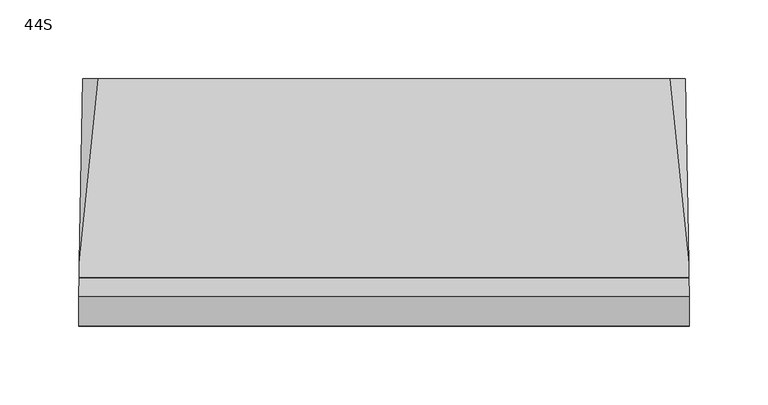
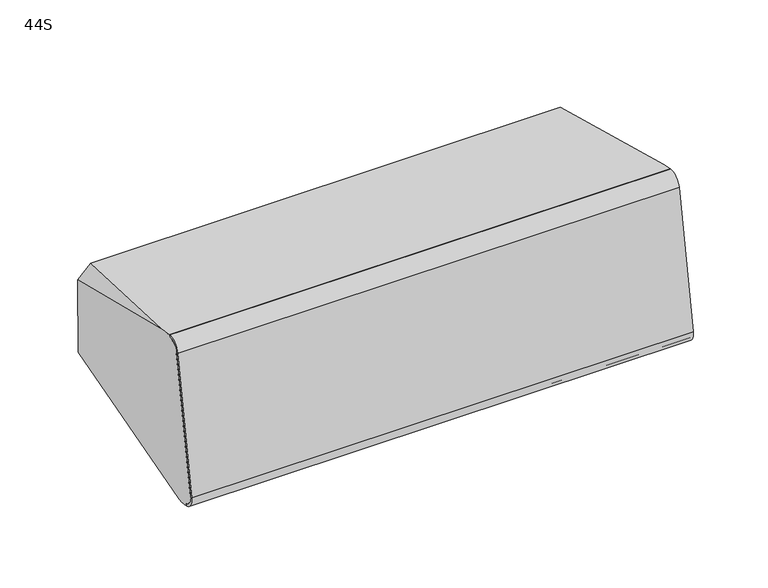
"""IFC4 building model written with IfcOpenShell, lengths in millimetres: proxy geometry, d&b xS-Series 44S Point Source : 44S."""

from ifc_helpers import new_model, si_unit, frame, origin, place, context, project, spatial, polyline, circle_curve, ellipse_curve, source, transform, mapped, element, save
from ifc_brep_helpers import plane_surface, cylinder_surface, revolved_surface, advanced_brep


def proxy_44s_f901832d(model_context):
    return source(origin(), model_context, "Body", "AdvancedBrep", [
        advanced_brep(
        [(193.2924342, -53.8838283, 74.4884759), (193.2924342, -54.2235668, 72.5617234), (193.4294708, -63.4507785, 66.1007602), (193.4294708, -82.2184008, -40.3357147), (193.2918337, -75.7291242, -49.6033621), (193.2918337, -76.0764205, -51.5729776), (193.1898069, -70.2363231, -52.6027444), (193.132384, -66.7384961, -51.9862805), (190.8800877, 72.3274823, -17.196889), (191.0574064, 72.3274823, 42.1555592), (193.132384, -44.7224233, 72.873073), (-193.2924342, -54.2235668, 72.5617234), (-193.2924342, -53.8838283, 74.4884759), (-193.132384, -44.7224233, 72.873073), (-191.0574064, 72.3274823, 42.1555592), (-190.8800877, 72.3274823, -17.196889), (-193.132384, -66.7384961, -51.9862805), (-193.1898069, -70.2363231, -52.6027444), (-193.2918337, -76.0764205, -51.5729776), (-193.2918337, -75.7291242, -49.6033621), (-193.4294708, -82.2184008, -40.3357147), (-193.4294708, -63.4507785, 66.1007602), (181.3061997, 72.3274823, 52.2340166), (-181.3061997, 72.3274823, 52.2340166), (-179.9289467, 72.3274823, -27.4770213), (179.9289467, 72.3274823, -27.4770213), (138.5, 72.3274823, -0.6215024), (138.5, 72.3274823, 25.3784976), (128.5, 72.3274823, 35.3784976), (51.5, 72.3274823, 35.3784976), (41.5, 72.3274823, 25.3784976), (41.5, 72.3274823, -0.6215024), (51.5, 72.3274823, -10.6215024), (128.5, 72.3274823, -10.6215024), (138.5, 67.3274823, -0.6215024), (128.5, 67.3274823, -10.6215024), (51.5, 67.3274823, -10.6215024), (41.5, 67.3274823, -0.6215024), (41.5, 67.3274823, 25.3784976), (51.5, 67.3274823, 35.3784976), (128.5, 67.3274823, 35.3784976), (138.5, 67.3274823, 25.3784976)],
        [
            (0, 1),
            (1, 2, ellipse_curve(frame((193.2924342, -55.606691, 64.7176359), z_axis=(0.9998520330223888, 0.01694075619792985, -0.0029871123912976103), x_axis=(0.01720209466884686, -0.9846620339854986, 0.17362248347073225)), 7.9662739, 7.9650952)),
            (2, 3),
            (3, 4, ellipse_curve(frame((193.2918337, -74.3399388, -41.7249001), z_axis=(0.9998520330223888, 0.01694075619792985, -0.0029871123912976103), x_axis=(0.01720209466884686, -0.9846620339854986, 0.17362248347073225)), 8.0011839, 8.0)),
            (4, 5),
            (5, 6),
            (6, 7),
            (7, 8),
            (8, 9),
            (9, 10),
            (10, 0),
            (11, 12),
            (12, 13),
            (13, 14),
            (14, 15),
            (15, 16),
            (16, 17),
            (17, 18),
            (18, 19),
            (19, 20, ellipse_curve(frame((-193.2918337, -74.3399388, -41.7249001), z_axis=(-0.9998520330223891, 0.01694075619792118, -0.002987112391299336), x_axis=(0.017202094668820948, 0.9846620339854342, -0.1736224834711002)), 8.0011839, 8.0)),
            (20, 21),
            (21, 11, ellipse_curve(frame((-193.2924342, -55.606691, 64.7176359), z_axis=(-0.9998520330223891, 0.01694075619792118, -0.002987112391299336), x_axis=(0.017202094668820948, 0.9846620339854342, -0.1736224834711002)), 7.9662739, 7.9650952)),
            (0, 12),
            (11, 1),
            (21, 2),
            (20, 3),
            (19, 4),
            (18, 5),
            (17, 6),
            (10, 22),
            (22, 23),
            (23, 13),
            (16, 24),
            (24, 25),
            (25, 7),
            (9, 22),
            (23, 14),
            (15, 24),
            (25, 8),
            (26, 27),
            (27, 28, circle_curve(frame((128.5, 72.3274823, 25.3784976), z_axis=(0.0, -1.0, 0.0), x_axis=(0.0, 0.0, -1.0)), 10.0)),
            (28, 29),
            (29, 30, circle_curve(frame((51.5, 72.3274823, 25.3784976), z_axis=(0.0, -1.0, 0.0), x_axis=(0.0, 0.0, -1.0)), 10.0)),
            (30, 31),
            (31, 32, circle_curve(frame((51.5, 72.3274823, -0.6215024), z_axis=(0.0, -1.0, 0.0), x_axis=(0.0, 0.0, -1.0)), 10.0)),
            (32, 33),
            (33, 26, circle_curve(frame((128.5, 72.3274823, -0.6215024), z_axis=(0.0, -1.0, 0.0), x_axis=(0.0, 0.0, -1.0)), 10.0)),
            (34, 35, circle_curve(frame((128.5, 67.3274823, -0.6215024), z_axis=(0.0, 1.0, 0.0), x_axis=(0.0, 0.0, -1.0)), 10.0)),
            (35, 36),
            (36, 37, circle_curve(frame((51.5, 67.3274823, -0.6215024), z_axis=(0.0, 1.0, 0.0), x_axis=(0.0, 0.0, -1.0)), 10.0)),
            (37, 38),
            (38, 39, circle_curve(frame((51.5, 67.3274823, 25.3784976), z_axis=(0.0, 1.0, 0.0), x_axis=(0.0, 0.0, -1.0)), 10.0)),
            (39, 40),
            (40, 41, circle_curve(frame((128.5, 67.3274823, 25.3784976), z_axis=(0.0, 1.0, 0.0), x_axis=(0.0, 0.0, -1.0)), 10.0)),
            (41, 34),
            (41, 27),
            (26, 34),
            (40, 28),
            (39, 29),
            (38, 30),
            (37, 31),
            (36, 32),
            (35, 33),
        ],
        [
            plane_surface(frame((193.8309972, -113.1899198, -81.5842244), z_axis=(0.999852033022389, 0.016940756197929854, -0.002987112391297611), x_axis=(0.0, 0.1736481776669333, 0.9848077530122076))),
            plane_surface(frame((-190.7119283, 65.3481506, -113.0653033), z_axis=(-0.9998520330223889, 0.016940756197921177, -0.002987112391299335), x_axis=(0.0, 0.1736481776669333, 0.9848077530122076))),
            plane_surface(frame((207.1452552, -53.8838283, 74.4884759), z_axis=(0.0, -0.9848077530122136, 0.17364817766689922), x_axis=(-1.0, 0.0, 0.0))),
            cylinder_surface(frame((-207.1452552, -55.606691, 64.7176359), z_axis=(1.0, 0.0, 0.0), x_axis=(0.0, 0.1736481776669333, 0.9848077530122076)), 7.9650952),
            plane_surface(frame((207.1452552, -63.4507785, 66.1007602), z_axis=(0.0, -0.9848077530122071, 0.17364817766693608), x_axis=(-1.0, 0.0, 0.0))),
            cylinder_surface(frame((-207.1452552, -74.3399388, -41.7249001), z_axis=(1.0, 0.0, 0.0), x_axis=(0.0, 0.1736481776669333, 0.9848077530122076)), 8.0),
            plane_surface(frame((207.1452552, -75.7291242, -49.6033621), z_axis=(0.0, -0.9848077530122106, 0.17364817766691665), x_axis=(-1.0, 0.0, 0.0))),
            plane_surface(frame((207.1452552, -76.0764205, -51.5729776), z_axis=(0.0, -0.1736481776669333, -0.9848077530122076), x_axis=(-1.0, 0.0, 0.0))),
            plane_surface(frame((207.1452552, -48.0093563, 73.452648), z_axis=(0.0, 0.1736481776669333, 0.9848077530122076), x_axis=(-1.0, 0.0, 0.0))),
            plane_surface(frame((0.0, 72.3274823, -27.4770213), z_axis=(0.0, 0.17356696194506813, -0.9848220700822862), x_axis=(1.0, 0.0, 0.0))),
            plane_surface(frame((186.6967137, 84.7836622, 43.1654853), z_axis=(0.705363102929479, 0.19160270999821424, 0.6824597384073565), x_axis=(-0.7071067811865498, 0.12278780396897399, 0.6963642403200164))),
            plane_surface(frame((-186.6967137, 84.7836622, 43.1654853), z_axis=(-0.7053631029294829, 0.1916027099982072, 0.6824597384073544), x_axis=(-0.7071067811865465, -0.12278780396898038, -0.6963642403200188))),
            plane_surface(frame((-186.6967137, 73.5026927, -20.812072), z_axis=(-0.6719558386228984, 0.18995477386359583, -0.715815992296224), x_axis=(0.7071067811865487, -0.12278780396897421, -0.6963642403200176))),
            plane_surface(frame((186.6967137, 73.5026927, -20.812072), z_axis=(0.6719558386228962, 0.18995477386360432, -0.715815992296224), x_axis=(0.7071067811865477, 0.12278780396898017, 0.6963642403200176))),
            plane_surface(frame((250.0, 72.3274823, 69.7587976), z_axis=(0.0, 1.0, 0.0), x_axis=(-1.0, 0.0, 0.0))),
            plane_surface(frame((138.5, 67.3274823, 52.2340166), z_axis=(0.0, 1.0, 0.0), x_axis=(0.0, 0.0, 1.0))),
            plane_surface(frame((138.5, 67.3274823, -0.6215024), z_axis=(-1.0, 0.0, 0.0), x_axis=(0.0, 1.0, 0.0))),
            revolved_surface(polyline([(128.5, 67.3274823, 15.3784976), (128.5, 72.3274823, 15.3784976)]), (128.5, 72.3274823, 25.3784976), (0.0, -1.0, 0.0)),
            plane_surface(frame((128.5, 67.3274823, 35.3784976), z_axis=(0.0, 0.0, -1.0), x_axis=(0.0, 1.0, 0.0))),
            revolved_surface(polyline([(51.5, 67.3274823, 15.3784976), (51.5, 72.3274823, 15.3784976)]), (51.5, 72.3274823, 25.3784976), (0.0, -1.0, 0.0)),
            plane_surface(frame((41.5, 67.3274823, 25.3784976), z_axis=(1.0, 0.0, 0.0), x_axis=(0.0, 1.0, 0.0))),
            revolved_surface(polyline([(51.5, 67.3274823, -10.6215024), (51.5, 72.3274823, -10.6215024)]), (51.5, 72.3274823, -0.6215024), (0.0, -1.0, 0.0)),
            plane_surface(frame((51.5, 67.3274823, -10.6215024), z_axis=(0.0, 0.0, 1.0), x_axis=(0.0, 1.0, 0.0))),
            revolved_surface(polyline([(128.5, 67.3274823, -10.6215024), (128.5, 72.3274823, -10.6215024)]), (128.5, 72.3274823, -0.6215024), (0.0, -1.0, 0.0)),
        ],
        [
            (0, [[1, 2, 3, 4, 5, 6, 7, 8, 9, 10, 11]]),
            (1, [[12, 13, 14, 15, 16, 17, 18, 19, 20, 21, 22]]),
            (2, [[23, -12, 24, -1]]),
            (3, [[-24, -22, 25, -2]]),
            (4, [[-25, -21, 26, -3]]),
            (5, [[-26, -20, 27, -4]]),
            (6, [[-27, -19, 28, -5]]),
            (7, [[-28, -18, 29, -6]]),
            (8, [[-23, -11, 30, 31, 32, -13]]),
            (9, [[-29, -17, 33, 34, 35, -7]]),
            (10, [[-30, -10, 36]]),
            (11, [[-32, 37, -14]]),
            (12, [[-33, -16, 38]]),
            (13, [[-35, 39, -8]]),
            (14, [[-31, -36, -9, -39, -34, -38, -15, -37], [40, 41, 42, 43, 44, 45, 46, 47]]),
            (15, [[48, 49, 50, 51, 52, 53, 54, 55]]),
            (16, [[-55, 56, -40, 57]]),
            (17, [[-54, 58, -41, -56]]),
            (18, [[-53, 59, -42, -58]]),
            (19, [[-52, 60, -43, -59]]),
            (20, [[-51, 61, -44, -60]]),
            (21, [[-50, 62, -45, -61]]),
            (22, [[-49, 63, -46, -62]]),
            (23, [[-48, -57, -47, -63]]),
        ],
    ),
        advanced_brep(
        [(193.4294708, -82.2184008, -40.3357147), (193.4294708, -63.4507785, 66.1007602), (193.2924342, -54.2235668, 72.5617234), (193.2924342, -53.8838283, 74.4884759), (193.4644806, -65.4683876, 66.3768802), (193.4644806, -84.2223908, -39.9823572), (193.2918337, -76.0824817, -51.6073522), (193.2918337, -75.7291242, -49.6033621), (-193.4294708, -63.4507785, 66.1007602), (-193.4294708, -82.2184008, -40.3357147), (-193.2918337, -75.7291242, -49.6033621), (-193.2918337, -76.0824817, -51.6073522), (-193.4644806, -84.2223908, -39.9823572), (-193.4644806, -65.4683876, 66.3768802), (-193.2924342, -53.8838283, 74.4884759), (-193.2924342, -54.2235668, 72.5617234)],
        [
            (0, 1),
            (1, 2, ellipse_curve(frame((193.2924342, -55.606691, 64.7176359), z_axis=(-0.9998520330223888, -0.01694075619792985, 0.0029871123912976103), x_axis=(-0.017202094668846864, 0.9846620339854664, -0.1736224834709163)), 7.9662739, 7.9650952)),
            (2, 3),
            (3, 4, ellipse_curve(frame((193.2924342, -55.6203101, 64.6403984), z_axis=(0.9998520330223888, 0.01694075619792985, -0.0029871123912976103), x_axis=(0.017202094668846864, -0.9846620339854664, 0.1736224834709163)), 10.0014799, 10.0)),
            (4, 5),
            (5, 6, ellipse_curve(frame((193.2918337, -74.3399388, -41.7249001), z_axis=(0.9998520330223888, 0.01694075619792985, -0.0029871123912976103), x_axis=(0.017202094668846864, -0.9846620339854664, 0.1736224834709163)), 10.0363899, 10.0349048)),
            (6, 7),
            (7, 0, ellipse_curve(frame((193.2918337, -74.3399388, -41.7249001), z_axis=(-0.9998520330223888, -0.01694075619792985, 0.0029871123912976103), x_axis=(-0.017202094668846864, 0.9846620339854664, -0.1736224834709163)), 8.0011839, 8.0)),
            (8, 9),
            (9, 10, ellipse_curve(frame((-193.2918337, -74.3399388, -41.7249001), z_axis=(0.9998520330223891, -0.01694075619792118, 0.002987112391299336), x_axis=(-0.017202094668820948, -0.9846620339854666, 0.17362248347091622)), 8.0011839, 8.0)),
            (10, 11),
            (11, 12, ellipse_curve(frame((-193.2918337, -74.3399388, -41.7249001), z_axis=(-0.9998520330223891, 0.01694075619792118, -0.002987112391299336), x_axis=(0.017202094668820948, 0.9846620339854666, -0.17362248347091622)), 10.0363899, 10.0349048)),
            (12, 13),
            (13, 14, ellipse_curve(frame((-193.2924342, -55.6203101, 64.6403984), z_axis=(-0.9998520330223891, 0.01694075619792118, -0.002987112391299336), x_axis=(0.017202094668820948, 0.9846620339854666, -0.17362248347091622)), 10.0014799, 10.0)),
            (14, 15),
            (15, 8, ellipse_curve(frame((-193.2924342, -55.606691, 64.7176359), z_axis=(0.9998520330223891, -0.01694075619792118, 0.002987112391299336), x_axis=(-0.017202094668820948, -0.9846620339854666, 0.17362248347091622)), 7.9662739, 7.9650952)),
            (0, 9),
            (8, 1),
            (15, 2),
            (14, 3),
            (13, 4),
            (12, 5),
            (11, 6),
            (10, 7),
        ],
        [
            plane_surface(frame((193.8309972, -113.1899198, -81.5842244), z_axis=(0.999852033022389, 0.016940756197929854, -0.002987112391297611), x_axis=(0.0, 0.1736481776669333, 0.9848077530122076))),
            plane_surface(frame((-190.7119283, 65.3481506, -113.0653033), z_axis=(-0.9998520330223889, 0.016940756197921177, -0.002987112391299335), x_axis=(0.0, 0.1736481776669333, 0.9848077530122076))),
            plane_surface(frame((202.5, -82.2184008, -40.3357147), z_axis=(0.0, 0.9848077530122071, -0.17364817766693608), x_axis=(-1.0, 0.0, 0.0))),
            revolved_surface(polyline([(-193.4294708, -56.98981526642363, 56.87354839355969), (193.4294708, -56.98981526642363, 56.87354839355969)]), (-202.5, -55.606691, 64.7176359), (-1.0, 0.0, 0.0)),
            plane_surface(frame((202.5, -54.2235668, 72.5617234), z_axis=(0.0, 0.9848077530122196, -0.17364817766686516), x_axis=(-1.0, 0.0, 0.0))),
            cylinder_surface(frame((-202.5, -55.6203101, 64.6403984), z_axis=(1.0, 0.0, 0.0), x_axis=(0.0, -0.1736481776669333, -0.9848077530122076)), 10.0),
            plane_surface(frame((202.5, -65.4683876, 66.3768802), z_axis=(0.0, -0.984807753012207, 0.17364817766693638), x_axis=(-1.0, 0.0, 0.0))),
            cylinder_surface(frame((-202.5, -74.3399388, -41.7249001), z_axis=(1.0, 0.0, 0.0), x_axis=(0.0, -0.1736481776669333, -0.9848077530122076)), 10.0349048),
            plane_surface(frame((202.5, -76.0824817, -51.6073522), z_axis=(0.0, 0.9848077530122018, -0.17364817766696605), x_axis=(-1.0, 0.0, 0.0))),
            revolved_surface(polyline([(-193.42947082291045, -75.72912422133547, -49.60336212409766), (193.42947082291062, -75.72912422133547, -49.60336212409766)]), (-202.5, -74.3399388, -41.7249001), (-1.0, 0.0, 0.0)),
        ],
        [
            (0, [[1, 2, 3, 4, 5, 6, 7, 8]]),
            (1, [[9, 10, 11, 12, 13, 14, 15, 16]]),
            (2, [[17, -9, 18, -1]]),
            (3, [[-18, -16, 19, -2]]),
            (4, [[-19, -15, 20, -3]]),
            (5, [[-20, -14, 21, -4]]),
            (6, [[-21, -13, 22, -5]]),
            (7, [[-22, -12, 23, -6]]),
            (8, [[-23, -11, 24, -7]]),
            (9, [[-17, -8, -24, -10]]),
        ],
    ),
        advanced_brep(
        [(193.4294708, -82.2184008, -40.3357147), (193.4294708, -63.4507785, 66.1007602), (193.2924342, -54.2235668, 72.5617234), (193.2924342, -53.8838283, 74.4884759), (193.4644806, -65.4683876, 66.3768802), (193.4644806, -84.2223908, -39.9823572), (193.2918337, -76.0824817, -51.6073522), (193.2918337, -75.7291242, -49.6033621), (-193.4294708, -63.4507785, 66.1007602), (-193.4294708, -82.2184008, -40.3357147), (-193.2918337, -75.7291242, -49.6033621), (-193.2918337, -76.0824817, -51.6073522), (-193.4644806, -84.2223908, -39.9823572), (-193.4644806, -65.4683876, 66.3768802), (-193.2924342, -53.8838283, 74.4884759), (-193.2924342, -54.2235668, 72.5617234)],
        [
            (0, 1),
            (1, 2, ellipse_curve(frame((193.2924342, -55.606691, 64.7176359), z_axis=(-0.9998520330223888, -0.01694075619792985, 0.0029871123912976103), x_axis=(-0.017202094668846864, 0.9846620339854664, -0.1736224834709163)), 7.9662739, 7.9650952)),
            (2, 3),
            (3, 4, ellipse_curve(frame((193.2924342, -55.6203101, 64.6403984), z_axis=(0.9998520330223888, 0.01694075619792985, -0.0029871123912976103), x_axis=(0.017202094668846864, -0.9846620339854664, 0.1736224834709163)), 10.0014799, 10.0)),
            (4, 5),
            (5, 6, ellipse_curve(frame((193.2918337, -74.3399388, -41.7249001), z_axis=(0.9998520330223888, 0.01694075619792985, -0.0029871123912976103), x_axis=(0.017202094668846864, -0.9846620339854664, 0.1736224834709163)), 10.0363899, 10.0349048)),
            (6, 7),
            (7, 0, ellipse_curve(frame((193.2918337, -74.3399388, -41.7249001), z_axis=(-0.9998520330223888, -0.01694075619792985, 0.0029871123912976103), x_axis=(-0.017202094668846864, 0.9846620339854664, -0.1736224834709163)), 8.0011839, 8.0)),
            (8, 9),
            (9, 10, ellipse_curve(frame((-193.2918337, -74.3399388, -41.7249001), z_axis=(0.9998520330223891, -0.01694075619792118, 0.002987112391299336), x_axis=(-0.017202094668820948, -0.9846620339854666, 0.17362248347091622)), 8.0011839, 8.0)),
            (10, 11),
            (11, 12, ellipse_curve(frame((-193.2918337, -74.3399388, -41.7249001), z_axis=(-0.9998520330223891, 0.01694075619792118, -0.002987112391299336), x_axis=(0.017202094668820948, 0.9846620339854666, -0.17362248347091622)), 10.0363899, 10.0349048)),
            (12, 13),
            (13, 14, ellipse_curve(frame((-193.2924342, -55.6203101, 64.6403984), z_axis=(-0.9998520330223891, 0.01694075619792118, -0.002987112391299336), x_axis=(0.017202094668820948, 0.9846620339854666, -0.17362248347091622)), 10.0014799, 10.0)),
            (14, 15),
            (15, 8, ellipse_curve(frame((-193.2924342, -55.606691, 64.7176359), z_axis=(0.9998520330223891, -0.01694075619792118, 0.002987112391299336), x_axis=(-0.017202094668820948, -0.9846620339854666, 0.17362248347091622)), 7.9662739, 7.9650952)),
            (0, 9),
            (8, 1),
            (15, 2),
            (14, 3),
            (13, 4),
            (12, 5),
            (11, 6),
            (10, 7),
        ],
        [
            plane_surface(frame((193.8309972, -113.1899198, -81.5842244), z_axis=(0.999852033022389, 0.016940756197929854, -0.002987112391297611), x_axis=(0.0, 0.1736481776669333, 0.9848077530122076))),
            plane_surface(frame((-190.7119283, 65.3481506, -113.0653033), z_axis=(-0.9998520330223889, 0.016940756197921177, -0.002987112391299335), x_axis=(0.0, 0.1736481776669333, 0.9848077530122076))),
            plane_surface(frame((202.5, -82.2184008, -40.3357147), z_axis=(0.0, 0.9848077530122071, -0.17364817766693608), x_axis=(-1.0, 0.0, 0.0))),
            revolved_surface(polyline([(-193.4294708, -56.98981526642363, 56.87354839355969), (193.4294708, -56.98981526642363, 56.87354839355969)]), (-202.5, -55.606691, 64.7176359), (-1.0, 0.0, 0.0)),
            plane_surface(frame((202.5, -54.2235668, 72.5617234), z_axis=(0.0, 0.9848077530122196, -0.17364817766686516), x_axis=(-1.0, 0.0, 0.0))),
            cylinder_surface(frame((-202.5, -55.6203101, 64.6403984), z_axis=(1.0, 0.0, 0.0), x_axis=(0.0, -0.1736481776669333, -0.9848077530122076)), 10.0),
            plane_surface(frame((202.5, -65.4683876, 66.3768802), z_axis=(0.0, -0.984807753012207, 0.17364817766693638), x_axis=(-1.0, 0.0, 0.0))),
            cylinder_surface(frame((-202.5, -74.3399388, -41.7249001), z_axis=(1.0, 0.0, 0.0), x_axis=(0.0, -0.1736481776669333, -0.9848077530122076)), 10.0349048),
            plane_surface(frame((202.5, -76.0824817, -51.6073522), z_axis=(0.0, 0.9848077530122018, -0.17364817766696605), x_axis=(-1.0, 0.0, 0.0))),
            revolved_surface(polyline([(-193.42947082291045, -75.72912422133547, -49.60336212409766), (193.42947082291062, -75.72912422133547, -49.60336212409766)]), (-202.5, -74.3399388, -41.7249001), (-1.0, 0.0, 0.0)),
        ],
        [
            (0, [[1, 2, 3, 4, 5, 6, 7, 8]]),
            (1, [[9, 10, 11, 12, 13, 14, 15, 16]]),
            (2, [[17, -9, 18, -1]]),
            (3, [[-18, -16, 19, -2]]),
            (4, [[-19, -15, 20, -3]]),
            (5, [[-20, -14, 21, -4]]),
            (6, [[-21, -13, 22, -5]]),
            (7, [[-22, -12, 23, -6]]),
            (8, [[-23, -11, 24, -7]]),
            (9, [[-17, -8, -24, -10]]),
        ],
    ),
    ])


if __name__ == "__main__":
    model = new_model("IFC4")
    model_context = context("Model", 3, world=origin())
    ifc_project = project(units=[si_unit("LENGTHUNIT", "METRE", prefix="MILLI")], contexts=[model_context])
    site = spatial("IfcSite", under=ifc_project)
    building = spatial("IfcBuilding", under=site)
    placement = place(None, origin())
    proxy_44s_shape = proxy_44s_f901832d(model_context)
    element("IfcBuildingElementProxy", 1, Name="d&b xS-Series 44S Point Source : 44S", ObjectType="d&b xS-Series 44S Point Source : 44S", at=placement, inside=building, context=model_context, shape_type="MappedRepresentation", body=[
        mapped(proxy_44s_shape, transform((0.0, 0.0, 0.0), x_axis=(1.0, 0.0, 0.0), y_axis=(0.0, 1.0, 0.0), z_axis=(0.0, 0.0, 1.0))),
    ])
    save(model, "model.ifc")
